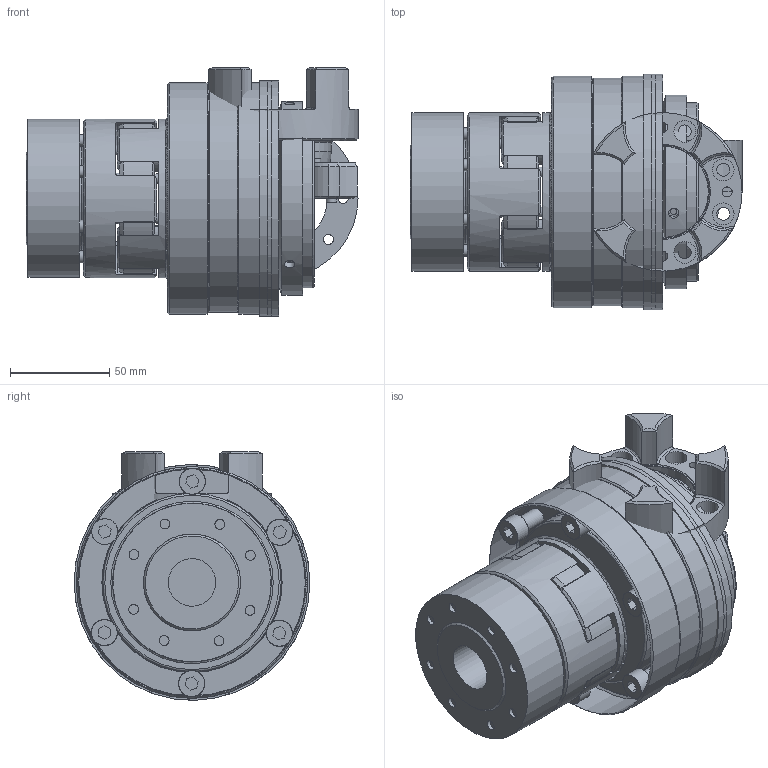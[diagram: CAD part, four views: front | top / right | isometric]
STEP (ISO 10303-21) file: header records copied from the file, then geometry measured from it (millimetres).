
FILE_DESCRIPTION( ( 'Unknown' ), '1' );
FILE_NAME( 'C:/Dokumente und Einstellungen/Sven/Desktop/hp kbk/E-AP/KBK EAP-38-136.stp', 'Unknown', ( 'Unknown' ), ( 'Unknown' ), 'XStep 1.0', 'Unknown', ' ' );
FILE_SCHEMA( ( 'automotive_design' ) );
Length unit declared in the file: millimetre
Products named in the file (17): Assem1; Assem2; Assem3; Zylinderschraube DIN 912_5; ball_bearing_-_6011_0_01_0; ball_bearing_-_6011_0_02_0; ball_bearing_-_6011_0_03_0; Kupplung L-P-300 Grundkörper_0; Stellring 300_0; Druckring 300_0; Flansch 300_0; a_55_0; Elastomerflansch 38_0; Zahnkranz_38_Standard_0; KBE 3 - 38_Nabe; KBE3-38_Druckring_0; ISO EN DIN 4762 M6x35
Bounding box: 167.55 x 119 x 125.5 mm (x, y, z)
Volume: 1711318.3 mm3; surface area: 502518.9 mm2
Topology: 44 solids, 44 shells, 1098 faces, 2376 edges, 1480 vertices
Faces by surface type: cylinder 378, plane 366, cone 283, torus 71
Full cylindrical faces by diameter (mm): 2.5 x4, 3.242 x6, 5 x49, 5.2 x6, 6 x18, 6.5 x16, 6.647 x12, 8 x8, 8.2 x12, 10 x9, 11 x16, 13 x8, 13.2 x12, 24 x2, 38 x4, 40 x2, 46 x2, 52 x2, 53 x2, 55 x7, 66.3 x6, 70 x2, 76 x4, 79.1 x6, 80 x6, 83.5 x2, 88 x2, 90 x7, 98 x2, 98.5 x2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
Entity records: 11646 total; most frequent: CARTESIAN_POINT 2549, DIRECTION 1992, ORIENTED_EDGE 1484, AXIS2_PLACEMENT_3D 931, EDGE_CURVE 742, EDGE_LOOP 676, VERTEX_POINT 538, FACE_OUTER_BOUND 528
